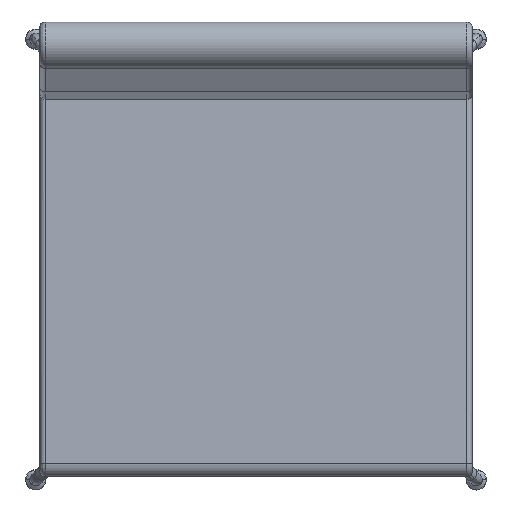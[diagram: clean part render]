
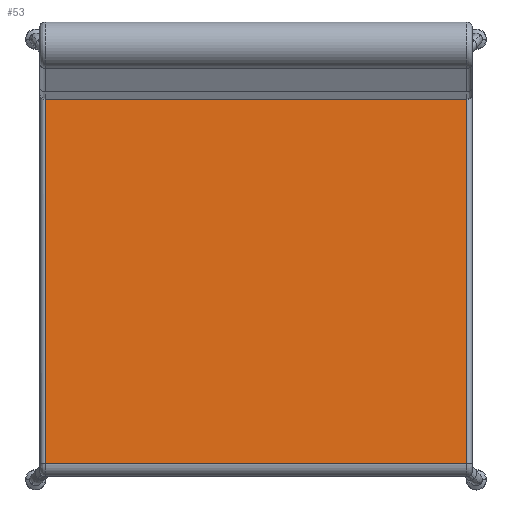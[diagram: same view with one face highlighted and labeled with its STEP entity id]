
A CAD part, top view. The second image highlights one B-rep face of the part: STEP entity #53.
In plain terms, the highlighted free-form (B-spline) face has degree [3, 1] with [4, 2] control points.
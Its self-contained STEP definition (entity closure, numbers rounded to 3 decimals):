
#53=ADVANCED_FACE('',(#158),#1399,.T.);
#158=FACE_OUTER_BOUND('',#263,.T.);
#263=EDGE_LOOP('',(#384,#385,#386,#387));
#384=ORIENTED_EDGE('',*,*,#842,.T.);
#385=ORIENTED_EDGE('',*,*,#805,.T.);
#386=ORIENTED_EDGE('',*,*,#843,.F.);
#387=ORIENTED_EDGE('',*,*,#804,.F.);
#804=EDGE_CURVE('',#1255,#1256,#1070,.T.);
#805=EDGE_CURVE('',#1257,#1258,#1071,.T.);
#842=EDGE_CURVE('',#1255,#1257,#1102,.T.);
#843=EDGE_CURVE('',#1256,#1258,#1103,.T.);
#1070=(
BOUNDED_CURVE()
B_SPLINE_CURVE(1,(#2122,#2123),.UNSPECIFIED.,.F.,.F.)
B_SPLINE_CURVE_WITH_KNOTS((2,2),(6.,504.),.UNSPECIFIED.)
CURVE()
GEOMETRIC_REPRESENTATION_ITEM()
RATIONAL_B_SPLINE_CURVE((1.,1.))
REPRESENTATION_ITEM('')
);
#1071=(
BOUNDED_CURVE()
B_SPLINE_CURVE(1,(#2124,#2125),.UNSPECIFIED.,.F.,.F.)
B_SPLINE_CURVE_WITH_KNOTS((2,2),(6.,504.),.UNSPECIFIED.)
CURVE()
GEOMETRIC_REPRESENTATION_ITEM()
RATIONAL_B_SPLINE_CURVE((1.,1.))
REPRESENTATION_ITEM('')
);
#1102=(
BOUNDED_CURVE()
B_SPLINE_CURVE(1,(#2257,#2258),.UNSPECIFIED.,.F.,.F.)
B_SPLINE_CURVE_WITH_KNOTS((2,2),(0.,432.642),
 .UNSPECIFIED.)
CURVE()
GEOMETRIC_REPRESENTATION_ITEM()
RATIONAL_B_SPLINE_CURVE((1.,1.))
REPRESENTATION_ITEM('')
);
#1103=(
BOUNDED_CURVE()
B_SPLINE_CURVE(1,(#2259,#2260),.UNSPECIFIED.,.F.,.F.)
B_SPLINE_CURVE_WITH_KNOTS((2,2),(0.,432.642),
 .UNSPECIFIED.)
CURVE()
GEOMETRIC_REPRESENTATION_ITEM()
RATIONAL_B_SPLINE_CURVE((1.,1.))
REPRESENTATION_ITEM('')
);
#1255=VERTEX_POINT('',#2042);
#1256=VERTEX_POINT('',#2043);
#1257=VERTEX_POINT('',#2044);
#1258=VERTEX_POINT('',#2045);
#1399=(
BOUNDED_SURFACE()
B_SPLINE_SURFACE(3,1,((#1652,#1653),(#1654,#1655),(#1656,#1657),(#1658,
#1659)),.UNSPECIFIED.,.F.,.F.,.F.)
B_SPLINE_SURFACE_WITH_KNOTS((4,4),(2,2),(-1381.837,-949.195),
(0.,510.),.UNSPECIFIED.)
GEOMETRIC_REPRESENTATION_ITEM()
RATIONAL_B_SPLINE_SURFACE(((1.,1.),(1.,1.),(1.,1.),(1.,1.)))
REPRESENTATION_ITEM('')
SURFACE()
);
#1652=CARTESIAN_POINT('',(-255.,190.787,428.017));
#1653=CARTESIAN_POINT('',(255.,190.787,428.017));
#1654=CARTESIAN_POINT('',(-255.,46.739,434.942));
#1655=CARTESIAN_POINT('',(255.,46.739,434.942));
#1656=CARTESIAN_POINT('',(-255.,-97.308,441.867));
#1657=CARTESIAN_POINT('',(255.,-97.308,441.867));
#1658=CARTESIAN_POINT('',(-255.,-241.356,448.793));
#1659=CARTESIAN_POINT('',(255.,-241.356,448.793));
#2042=CARTESIAN_POINT('',(-249.,190.787,428.017));
#2043=CARTESIAN_POINT('',(249.,190.787,428.017));
#2044=CARTESIAN_POINT('',(-249.,-241.356,448.793));
#2045=CARTESIAN_POINT('',(249.,-241.356,448.793));
#2122=CARTESIAN_POINT('',(-249.,190.787,428.017));
#2123=CARTESIAN_POINT('',(249.,190.787,428.017));
#2124=CARTESIAN_POINT('',(-249.,-241.356,448.793));
#2125=CARTESIAN_POINT('',(249.,-241.356,448.793));
#2257=CARTESIAN_POINT('',(-249.,190.787,428.017));
#2258=CARTESIAN_POINT('',(-249.,-241.356,448.793));
#2259=CARTESIAN_POINT('',(249.,190.787,428.017));
#2260=CARTESIAN_POINT('',(249.,-241.356,448.793));
